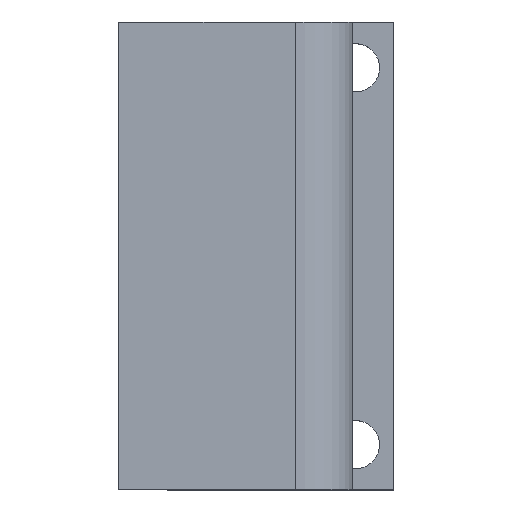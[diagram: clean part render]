
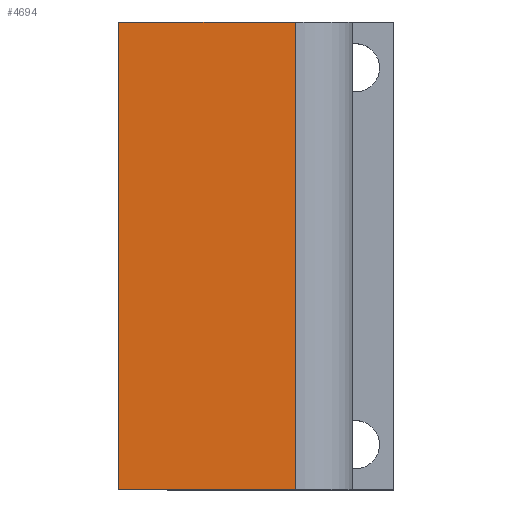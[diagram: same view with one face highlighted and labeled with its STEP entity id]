
A CAD part, top view. The second image highlights one B-rep face of the part: STEP entity #4694.
In plain terms, the highlighted planar face has unit normal (0, 0, 1).
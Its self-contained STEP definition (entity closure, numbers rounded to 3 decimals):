
#71 = PLANE('',#72);
#72 = AXIS2_PLACEMENT_3D('',#73,#74,#75);
#73 = CARTESIAN_POINT('',(25.,40.,-12.));
#74 = DIRECTION('',(0.,1.,0.));
#75 = DIRECTION('',(0.,0.,1.));
#157 = CYLINDRICAL_SURFACE('',#158,3.8);
#158 = AXIS2_PLACEMENT_3D('',#159,#160,#161);
#159 = CARTESIAN_POINT('',(39.,49.,9.));
#160 = DIRECTION('',(-0.,-1.,-0.));
#161 = DIRECTION('',(1.,0.,-0.));
#184 = PLANE('',#185);
#185 = AXIS2_PLACEMENT_3D('',#186,#187,#188);
#186 = CARTESIAN_POINT('',(25.,9.,-12.));
#187 = DIRECTION('',(0.,1.,0.));
#188 = DIRECTION('',(0.,0.,1.));
#1140 = VERTEX_POINT('',#1141);
#1141 = CARTESIAN_POINT('',(27.3,40.,12.8));
#1155 = PLANE('',#1156);
#1156 = AXIS2_PLACEMENT_3D('',#1157,#1158,#1159);
#1157 = CARTESIAN_POINT('',(27.3,-10.3,7.));
#1158 = DIRECTION('',(1.,0.,0.));
#1159 = DIRECTION('',(0.,0.,1.));
#1166 = EDGE_CURVE('',#1140,#1167,#1169,.T.);
#1167 = VERTEX_POINT('',#1168);
#1168 = CARTESIAN_POINT('',(39.,40.,12.8));
#1169 = SURFACE_CURVE('',#1170,(#1174,#1181),.PCURVE_S1.);
#1170 = LINE('',#1171,#1172);
#1171 = CARTESIAN_POINT('',(25.,40.,12.8));
#1172 = VECTOR('',#1173,1.);
#1173 = DIRECTION('',(1.,0.,0.));
#1174 = PCURVE('',#71,#1175);
#1175 = DEFINITIONAL_REPRESENTATION('',(#1176),#1180);
#1176 = LINE('',#1177,#1178);
#1177 = CARTESIAN_POINT('',(24.8,0.));
#1178 = VECTOR('',#1179,1.);
#1179 = DIRECTION('',(0.,1.));
#1180 = ( GEOMETRIC_REPRESENTATION_CONTEXT(2) 
PARAMETRIC_REPRESENTATION_CONTEXT() REPRESENTATION_CONTEXT('2D SPACE',''
  ) );
#1181 = PCURVE('',#1182,#1187);
#1182 = PLANE('',#1183);
#1183 = AXIS2_PLACEMENT_3D('',#1184,#1185,#1186);
#1184 = CARTESIAN_POINT('',(-42.8,-66.8,12.8));
#1185 = DIRECTION('',(0.,0.,1.));
#1186 = DIRECTION('',(1.,0.,-0.));
#1187 = DEFINITIONAL_REPRESENTATION('',(#1188),#1192);
#1188 = LINE('',#1189,#1190);
#1189 = CARTESIAN_POINT('',(67.8,106.8));
#1190 = VECTOR('',#1191,1.);
#1191 = DIRECTION('',(1.,0.));
#1192 = ( GEOMETRIC_REPRESENTATION_CONTEXT(2) 
PARAMETRIC_REPRESENTATION_CONTEXT() REPRESENTATION_CONTEXT('2D SPACE',''
  ) );
#1575 = EDGE_CURVE('',#1167,#1576,#1578,.T.);
#1576 = VERTEX_POINT('',#1577);
#1577 = CARTESIAN_POINT('',(39.,9.,12.8));
#1578 = SURFACE_CURVE('',#1579,(#1583,#1590),.PCURVE_S1.);
#1579 = LINE('',#1580,#1581);
#1580 = CARTESIAN_POINT('',(39.,49.,12.8));
#1581 = VECTOR('',#1582,1.);
#1582 = DIRECTION('',(-0.,-1.,-0.));
#1583 = PCURVE('',#157,#1584);
#1584 = DEFINITIONAL_REPRESENTATION('',(#1585),#1589);
#1585 = LINE('',#1586,#1587);
#1586 = CARTESIAN_POINT('',(1.571,0.));
#1587 = VECTOR('',#1588,1.);
#1588 = DIRECTION('',(0.,1.));
#1589 = ( GEOMETRIC_REPRESENTATION_CONTEXT(2) 
PARAMETRIC_REPRESENTATION_CONTEXT() REPRESENTATION_CONTEXT('2D SPACE',''
  ) );
#1590 = PCURVE('',#1182,#1591);
#1591 = DEFINITIONAL_REPRESENTATION('',(#1592),#1596);
#1592 = LINE('',#1593,#1594);
#1593 = CARTESIAN_POINT('',(81.8,115.8));
#1594 = VECTOR('',#1595,1.);
#1595 = DIRECTION('',(0.,-1.));
#1596 = ( GEOMETRIC_REPRESENTATION_CONTEXT(2) 
PARAMETRIC_REPRESENTATION_CONTEXT() REPRESENTATION_CONTEXT('2D SPACE',''
  ) );
#1774 = EDGE_CURVE('',#1775,#1576,#1777,.T.);
#1775 = VERTEX_POINT('',#1776);
#1776 = CARTESIAN_POINT('',(27.3,9.,12.8));
#1777 = SURFACE_CURVE('',#1778,(#1782,#1789),.PCURVE_S1.);
#1778 = LINE('',#1779,#1780);
#1779 = CARTESIAN_POINT('',(25.,9.,12.8));
#1780 = VECTOR('',#1781,1.);
#1781 = DIRECTION('',(1.,0.,0.));
#1782 = PCURVE('',#184,#1783);
#1783 = DEFINITIONAL_REPRESENTATION('',(#1784),#1788);
#1784 = LINE('',#1785,#1786);
#1785 = CARTESIAN_POINT('',(24.8,0.));
#1786 = VECTOR('',#1787,1.);
#1787 = DIRECTION('',(0.,1.));
#1788 = ( GEOMETRIC_REPRESENTATION_CONTEXT(2) 
PARAMETRIC_REPRESENTATION_CONTEXT() REPRESENTATION_CONTEXT('2D SPACE',''
  ) );
#1789 = PCURVE('',#1182,#1790);
#1790 = DEFINITIONAL_REPRESENTATION('',(#1791),#1795);
#1791 = LINE('',#1792,#1793);
#1792 = CARTESIAN_POINT('',(67.8,75.8));
#1793 = VECTOR('',#1794,1.);
#1794 = DIRECTION('',(1.,0.));
#1795 = ( GEOMETRIC_REPRESENTATION_CONTEXT(2) 
PARAMETRIC_REPRESENTATION_CONTEXT() REPRESENTATION_CONTEXT('2D SPACE',''
  ) );
#3257 = EDGE_CURVE('',#1775,#1140,#3258,.T.);
#3258 = SURFACE_CURVE('',#3259,(#3263,#3270),.PCURVE_S1.);
#3259 = LINE('',#3260,#3261);
#3260 = CARTESIAN_POINT('',(27.3,-38.55,12.8));
#3261 = VECTOR('',#3262,1.);
#3262 = DIRECTION('',(0.,1.,0.));
#3263 = PCURVE('',#1155,#3264);
#3264 = DEFINITIONAL_REPRESENTATION('',(#3265),#3269);
#3265 = LINE('',#3266,#3267);
#3266 = CARTESIAN_POINT('',(5.8,28.25));
#3267 = VECTOR('',#3268,1.);
#3268 = DIRECTION('',(0.,-1.));
#3269 = ( GEOMETRIC_REPRESENTATION_CONTEXT(2) 
PARAMETRIC_REPRESENTATION_CONTEXT() REPRESENTATION_CONTEXT('2D SPACE',''
  ) );
#3270 = PCURVE('',#1182,#3271);
#3271 = DEFINITIONAL_REPRESENTATION('',(#3272),#3276);
#3272 = LINE('',#3273,#3274);
#3273 = CARTESIAN_POINT('',(70.1,28.25));
#3274 = VECTOR('',#3275,1.);
#3275 = DIRECTION('',(0.,1.));
#3276 = ( GEOMETRIC_REPRESENTATION_CONTEXT(2) 
PARAMETRIC_REPRESENTATION_CONTEXT() REPRESENTATION_CONTEXT('2D SPACE',''
  ) );
#4694 = ADVANCED_FACE('',(#4695),#1182,.T.);
#4695 = FACE_BOUND('',#4696,.T.);
#4696 = EDGE_LOOP('',(#4697,#4698,#4699,#4700));
#4697 = ORIENTED_EDGE('',*,*,#1774,.T.);
#4698 = ORIENTED_EDGE('',*,*,#1575,.F.);
#4699 = ORIENTED_EDGE('',*,*,#1166,.F.);
#4700 = ORIENTED_EDGE('',*,*,#3257,.F.);
